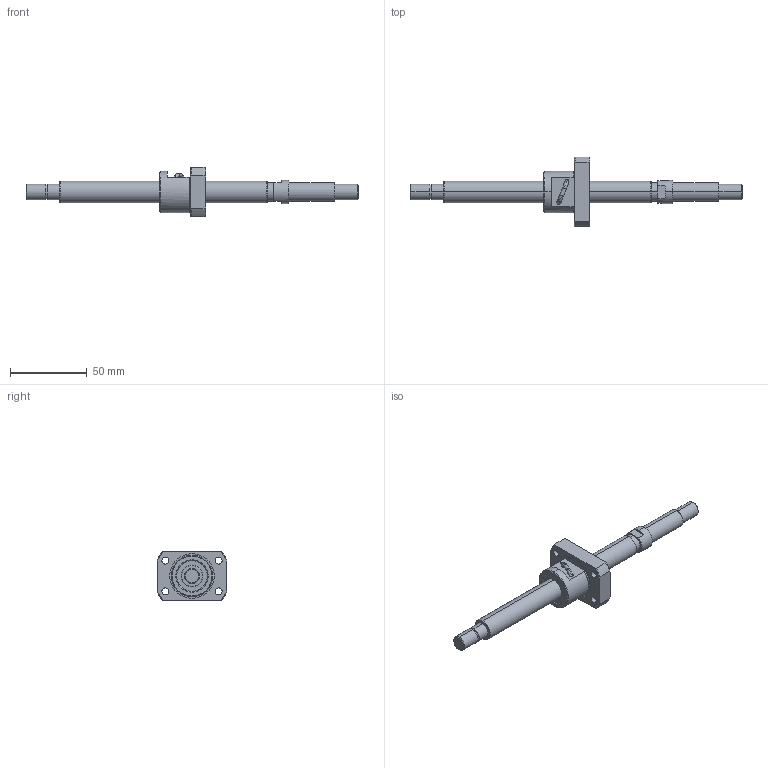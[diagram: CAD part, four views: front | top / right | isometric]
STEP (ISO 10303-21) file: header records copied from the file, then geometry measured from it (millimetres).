
FILE_DESCRIPTION (( 'STEP AP214' ), '1' );
FILE_NAME ('BS1402A-3D.STEP', '2014-03-07T19:47:11', ( '' ), ( '' ), 'SwSTEP 2.0', 'SolidWorks 2012', '' );
FILE_SCHEMA (( 'AUTOMOTIVE_DESIGN' ));
Length unit declared in the file: millimetre
Products named in the file (3): BS1402AŽ²; BS1402Aナット; BS1402A-3D
Assembly tree (2 placements, depth 2):
  BS1402A-3D
    BS1402Aナット
    BS1402AŽ²
Bounding box: 216 x 45 x 32 mm (x, y, z)
Volume: 47305.2 mm3; surface area: 19009.6 mm2
Topology: 5 solids, 5 shells, 161 faces, 406 edges, 264 vertices
Faces by surface type: cylinder 76, plane 45, cone 34, torus 4, bspline 2
Entity records: 6245 total; most frequent: CARTESIAN_POINT 2104, DIRECTION 862, ORIENTED_EDGE 808, EDGE_CURVE 404, AXIS2_PLACEMENT_3D 362, VERTEX_POINT 264, CIRCLE 198, EDGE_LOOP 196
